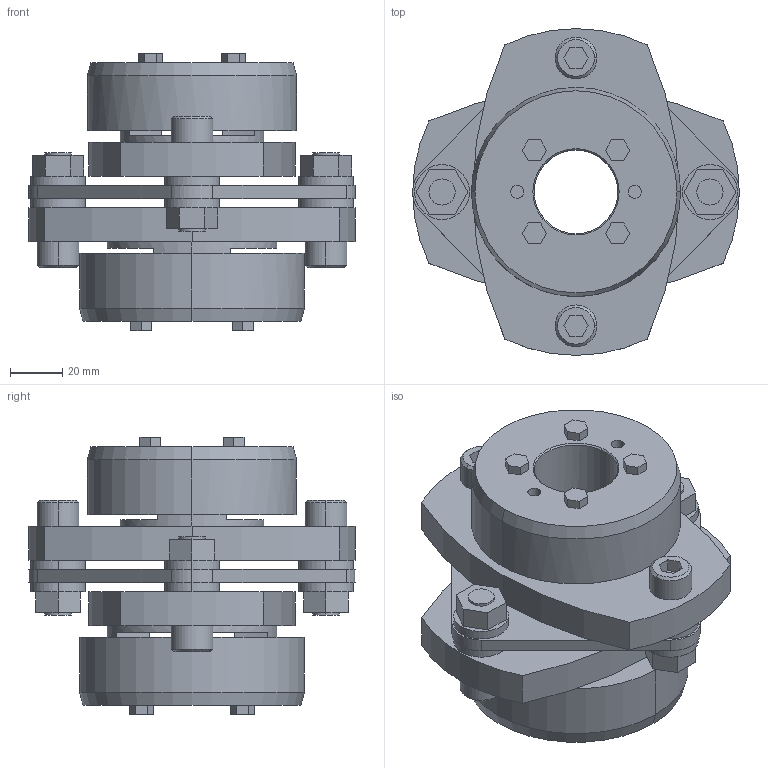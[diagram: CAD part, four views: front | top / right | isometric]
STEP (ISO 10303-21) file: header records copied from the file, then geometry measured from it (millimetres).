
FILE_DESCRIPTION((''),'2;1');
FILE_NAME('LCS-125T7-32×40.stp','2011-09-07T09:51:10',(''),(''),'AutoCAD STEP 2000i','AutoCAD 2000i',', , ');
FILE_SCHEMA(('CONFIG_CONTROL_DESIGN'));
Length unit declared in the file: millimetre
Products named in the file (8): LCS-125T7-32×40; 忣兜1; LC125T7-T040; LC125T7-T038; LC125T7-T035; LC125T7-T032-1; LC125T7-T032; LCS125-ITA
Assembly tree (7 placements, depth 2):
  LCS-125T7-32×40
    忣兜1
    LC125T7-T040
    LC125T7-T038
    LC125T7-T035
    LC125T7-T032-1
    LC125T7-T032
    LCS125-ITA
Bounding box: 125 x 125 x 106 mm (x, y, z)
Volume: 491050.5 mm3; surface area: 98347.9 mm2
Topology: 1 solids, 1 shells, 246 faces, 606 edges, 398 vertices
Faces by surface type: plane 146, cylinder 80, cone 20
Entity records: 7513 total; most frequent: DIRECTION 1312, CARTESIAN_POINT 1258, ORIENTED_EDGE 1212, EDGE_CURVE 606, AXIS2_PLACEMENT_3D 452, VECTOR 408, LINE 408, VERTEX_POINT 398
